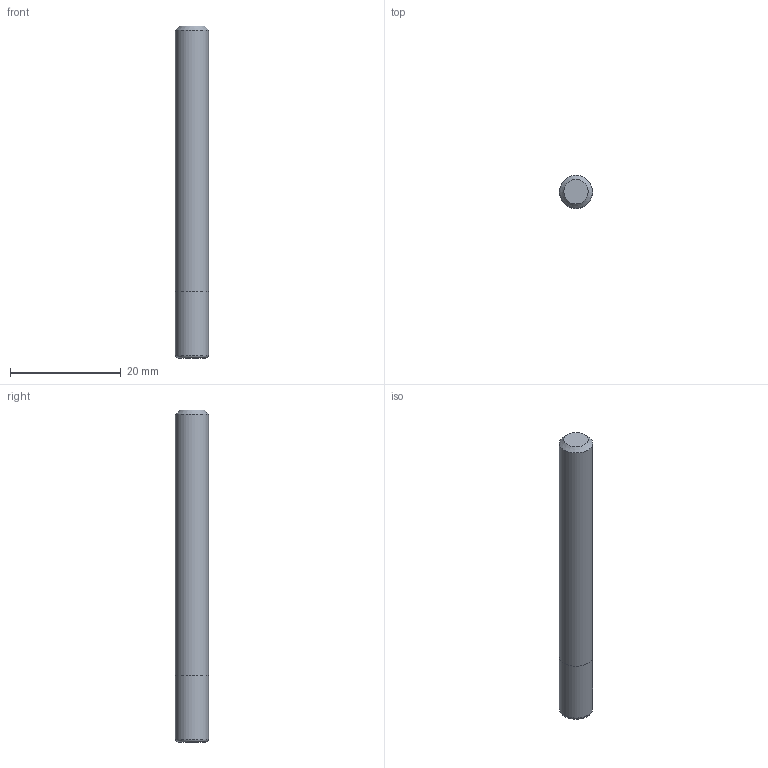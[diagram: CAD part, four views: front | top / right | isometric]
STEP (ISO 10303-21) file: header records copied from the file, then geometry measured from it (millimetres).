
FILE_DESCRIPTION((''),'2;1');
FILE_NAME('C:\Users\nsx150\AppData\Local\Temp\Mastercam 2021\Y59DX2IYLB\TEMP.step','2021-04-08T17:16:33',(''),(''),'STEP Write','Mastercam 2021 ... CNC Software, Inc.','');
FILE_SCHEMA(('AUTOMOTIVE_DESIGN'));
Length unit declared in the file: millimetre
Products named in the file (1): None
Bounding box: 6 x 6 x 60 mm (x, y, z)
Volume: 1690 mm3; surface area: 1230.2 mm2
Topology: 2 solids, 2 shells, 8 faces, 10 edges, 6 vertices
Faces by surface type: plane 4, cylinder 2, torus 1, cone 1
Full cylindrical faces by diameter (mm): 6 x2
Entity records: 190 total; most frequent: DIRECTION 32, CARTESIAN_POINT 22, AXIS2_PLACEMENT_3D 16, ORIENTED_EDGE 12, EDGE_LOOP 12, STYLED_ITEM 11, ADVANCED_FACE 8, FACE_BOUND 7
